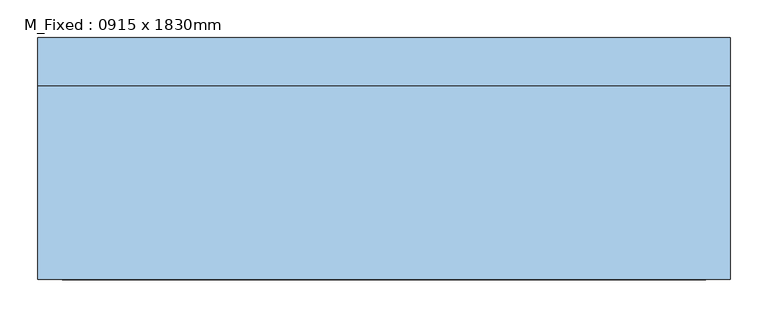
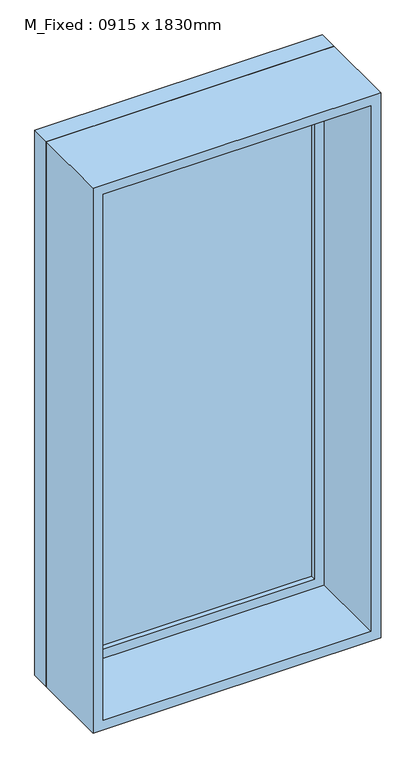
"""IFC4 building model written with IfcOpenShell, lengths in millimetres: window geometry, M_Fixed : 0915 x 1830mm."""

import ifcopenshell
import ifcopenshell.guid

model = None  # the IFC model being written
_history = None  # IfcOwnerHistory: only IFC2X3 demands one
_inside = {}  # id of a spatial element -> (the spatial element, [elements in it])
_under = {}  # id of a project, library or spatial element -> (it, [spatial elements below it])
_declared = {}  # id of a project -> (the project, [libraries it declares])
_typed = {}  # id of a type object -> (the type object, [elements of that type])
_made_of = {}  # id of a material, layer set ... -> (it, [elements and type objects made of it])


def new_model(schema):
    """Start an empty IFC model of exactly this schema.

    Asked for "IFC4X3", IfcOpenShell would pick the latest addendum, in which some entities
    have other attributes; the version numbers below select the first issue.
    IFC2X3 requires an IfcOwnerHistory on every rooted entity: one is made here for all.
    """
    global model, _history
    if schema == "IFC4X3":
        model = ifcopenshell.file(schema_version=(4, 3, 0, 0))
    else:
        model = ifcopenshell.file(schema=schema)
    _inside.clear()
    _under.clear()
    _declared.clear()
    _typed.clear()
    _made_of.clear()
    _history = None
    if model.schema == "IFC2X3":
        org = make("IfcOrganization", Name="unknown")
        user = make(
            "IfcPersonAndOrganization",
            ThePerson=make("IfcPerson", FamilyName="unknown"),
            TheOrganization=org,
        )
        app = make(
            "IfcApplication",
            ApplicationDeveloper=org,
            Version="unknown",
            ApplicationFullName="unknown",
            ApplicationIdentifier="unknown",
        )
        _history = make(
            "IfcOwnerHistory",
            OwningUser=user,
            OwningApplication=app,
            ChangeAction="ADDED",
            CreationDate=0,
        )
    return model


def make(cls, **values):
    """One entity of the class cls with the attributes given. An attribute that is None is left unset."""
    return model.create_entity(
        cls, **{name: value for name, value in values.items() if value is not None}
    )


def rooted(cls, **values):
    """An entity with a GlobalId (a new one), such as an element, a storey or a relation."""
    return make(cls, GlobalId=ifcopenshell.guid.new(), OwnerHistory=_history, **values)


def si_unit(unit_type, name, prefix=None):
    """IfcSIUnit, for example si_unit("LENGTHUNIT", "METRE", prefix="MILLI")."""
    return make("IfcSIUnit", UnitType=unit_type, Prefix=prefix, Name=name)


def assignment(units):
    """IfcUnitAssignment: the units of a project."""
    return None if units is None else make("IfcUnitAssignment", Units=units)


def point(xyz):
    """IfcCartesianPoint."""
    return None if xyz is None else make("IfcCartesianPoint", Coordinates=xyz)


def direction(xyz):
    """IfcDirection."""
    return None if xyz is None else make("IfcDirection", DirectionRatios=xyz)


def frame(location, z_axis=None, x_axis=None):
    """IfcAxis2Placement3D, a coordinate frame: its origin and axes. An axis left out is left unset."""
    return make(
        "IfcAxis2Placement3D",
        Location=point(location),
        Axis=direction(z_axis),
        RefDirection=direction(x_axis),
    )


def origin():
    """The frame at (0, 0, 0) with its axes left unset."""
    return frame((0.0, 0.0, 0.0))


def place(relative_to, where):
    """IfcLocalPlacement: puts the frame where relative to a parent placement (None: the world)."""
    return make(
        "IfcLocalPlacement", PlacementRelTo=relative_to, RelativePlacement=where
    )


def context(
    kind, dimensions, precision=None, world=None, true_north=None, identifier=None
):
    """IfcGeometricRepresentationContext, for example the 3D "Model" context."""
    return make(
        "IfcGeometricRepresentationContext",
        ContextIdentifier=identifier,
        ContextType=kind,
        CoordinateSpaceDimension=dimensions,
        Precision=precision,
        WorldCoordinateSystem=world,
        TrueNorth=true_north,
    )


def project(units=None, contexts=None):
    """IfcProject with its units and contexts."""
    return rooted(
        "IfcProject",
        Name="project",
        RepresentationContexts=contexts,
        UnitsInContext=assignment(units),
    )


def spatial(cls, under=None, at=None, **own):
    """A site, building, storey or space (cls), placed at a placement, below another one or the project."""
    s = rooted(cls, ObjectPlacement=at, **own)
    if under is not None:
        _under.setdefault(under.id(), (under, []))[1].append(s)
    return s


def polyline(points):
    """IfcPolyline through the points."""
    return make("IfcPolyline", Points=[point(p) for p in points])


def outline(outer, holes=None, kind="AREA"):
    """IfcArbitraryClosedProfileDef: a profile drawn as a closed curve; with holes, ...WithVoids."""
    if holes is None:
        return make("IfcArbitraryClosedProfileDef", ProfileType=kind, OuterCurve=outer)
    return make(
        "IfcArbitraryProfileDefWithVoids",
        ProfileType=kind,
        OuterCurve=outer,
        InnerCurves=holes,
    )


def extrude(swept, where, along, depth):
    """IfcExtrudedAreaSolid: the profile swept, set in the frame where, extruded along a direction by depth."""
    return make(
        "IfcExtrudedAreaSolid",
        SweptArea=swept,
        Position=where,
        ExtrudedDirection=direction(along),
        Depth=depth,
    )


def shape(context_of_items, identifier, shape_type, items):
    """IfcShapeRepresentation: the items that make up one representation, for example the "Body"."""
    return make(
        "IfcShapeRepresentation",
        ContextOfItems=context_of_items,
        RepresentationIdentifier=identifier,
        RepresentationType=shape_type,
        Items=items,
    )


def source(mapping_origin, context_of_items, identifier, shape_type, items):
    """IfcRepresentationMap: a shape defined once, which mapped items show again and again."""
    return make(
        "IfcRepresentationMap",
        MappingOrigin=mapping_origin,
        MappedRepresentation=shape(context_of_items, identifier, shape_type, items),
    )


def transform(
    local_origin,
    x_axis=None,
    y_axis=None,
    z_axis=None,
    scale=None,
    scale2=None,
    scale3=None,
    uniform=True,
):
    """IfcCartesianTransformationOperator3D, or its non-uniform kind. x_axis, y_axis, z_axis: its Axis1, 2, 3."""
    if uniform:
        return make(
            "IfcCartesianTransformationOperator3D",
            Axis1=direction(x_axis),
            Axis2=direction(y_axis),
            LocalOrigin=point(local_origin),
            Scale=scale,
            Axis3=direction(z_axis),
        )
    return make(
        "IfcCartesianTransformationOperator3DnonUniform",
        Axis1=direction(x_axis),
        Axis2=direction(y_axis),
        LocalOrigin=point(local_origin),
        Scale=scale,
        Axis3=direction(z_axis),
        Scale2=scale2,
        Scale3=scale3,
    )


def mapped(mapping_source, mapping_target):
    """IfcMappedItem: shows the shape of a source again, moved by a transform."""
    return make(
        "IfcMappedItem", MappingSource=mapping_source, MappingTarget=mapping_target
    )


def made_of(thing, what):
    """Note that an element or type object is made of a material, layer set ...; save() writes the relation."""
    if what is not None:
        _made_of.setdefault(what.id(), (what, []))[1].append(thing)
    return thing


def element(
    cls,
    number,
    at=None,
    inside=None,
    cuts=None,
    type_object=None,
    material=None,
    context=None,
    identifier="Body",
    shape_type=None,
    held_by="IfcProductDefinitionShape",
    body=None,
    shapes=None,
    **own,
):
    """One element of the class cls, such as IfcWall. Its Tag is "e" and its number.

    at: its placement. inside: the storey or other place that contains it. cuts: it is an
    opening in that element (IfcRelVoidsElement). A single representation is given by context,
    identifier, shape_type and body (its items); several are given by shapes. held_by: the class
    of the entity that holds the representations. save() writes the other relations.
    """
    e = rooted(cls, Tag="e%d" % number, ObjectPlacement=at, **own)
    if body is not None:
        shapes = [shape(context, identifier, shape_type, body)]
    if shapes is not None:
        e.Representation = make(held_by, Representations=shapes)
    if inside is not None:
        _inside.setdefault(inside.id(), (inside, []))[1].append(e)
    if cuts is not None:
        rooted(
            "IfcRelVoidsElement", RelatingBuildingElement=cuts, RelatedOpeningElement=e
        )
    if type_object is not None:
        _typed.setdefault(type_object.id(), (type_object, []))[1].append(e)
    return made_of(e, material)


def aggregate(whole, parts):
    """IfcRelAggregates: a whole, such as a stair, and the parts it consists of."""
    return rooted("IfcRelAggregates", RelatingObject=whole, RelatedObjects=parts)


def save(model, path):
    """Write the relations noted so far, then the file.

    IfcRelAggregates (storeys below a building ...), IfcRelContainedInSpatialStructure (elements
    in a storey), IfcRelDefinesByType, IfcRelAssociatesMaterial and IfcRelDeclares: one each for
    every whole, place, type object, material and project.
    """
    for whole, parts in _under.values():
        aggregate(whole, parts)
    for where, things in _inside.values():
        rooted(
            "IfcRelContainedInSpatialStructure",
            RelatedElements=things,
            RelatingStructure=where,
        )
    for kind, things in _typed.values():
        rooted("IfcRelDefinesByType", RelatedObjects=things, RelatingType=kind)
    for what, things in _made_of.values():
        rooted("IfcRelAssociatesMaterial", RelatedObjects=things, RelatingMaterial=what)
    for by, libraries in _declared.values():
        rooted("IfcRelDeclares", RelatingContext=by, RelatedDefinitions=libraries)
    model.write(path)


def m_fixed_0915_x_1830mm_9602f45c(model_context):
    return source(origin(), model_context, "Body", "SweptSolid", [
        extrude(outline(polyline([(-394.5, 138.0), (394.5, 138.0), (394.5, 126.0), (-394.5, 126.0), (-394.5, 138.0)])), frame((0.0, 0.0, 368.0), z_axis=(0.0, 0.0, 1.0), x_axis=(1.0, 0.0, 0.0)), (0.0, 0.0, 1.0), 1704.0),
        extrude(outline(polyline([(2116.0, -438.5), (324.0, -438.5), (324.0, 438.5), (2116.0, 438.5), (2116.0, -438.5)]), holes=[polyline([(2072.0, -394.5), (2072.0, 394.5), (368.0, 394.5), (368.0, -394.5), (2072.0, -394.5)])]), frame((0.0, 110.0, 0.0), z_axis=(0.0, 1.0, 0.0), x_axis=(0.0, 0.0, 1.0)), (0.0, 0.0, 1.0), 44.0),
        extrude(outline(polyline([(2135.0, -457.5), (305.0, -457.5), (305.0, 457.5), (2135.0, 457.5), (2135.0, -457.5)]), holes=[polyline([(2116.0, -438.5), (2116.0, 438.5), (324.0, 438.5), (324.0, -438.5), (2116.0, -438.5)])]), frame((0.0, 110.0, 0.0), z_axis=(0.0, 1.0, 0.0), x_axis=(0.0, 0.0, 1.0)), (0.0, 0.0, 1.0), 63.0),
        extrude(outline(polyline([(2135.0, -457.5), (305.0, -457.5), (305.0, 457.5), (2135.0, 457.5), (2135.0, -457.5)]), holes=[polyline([(2103.0, -425.5), (2103.0, 425.5), (337.0, 425.5), (337.0, -425.5), (2103.0, -425.5)])]), frame((0.0, -147.0, 0.0), z_axis=(0.0, 1.0, 0.0), x_axis=(0.0, 0.0, 1.0)), (0.0, 0.0, 1.0), 257.0),
    ])


if __name__ == "__main__":
    model = new_model("IFC4")
    model_context = context("Model", 3, world=origin())
    ifc_project = project(units=[si_unit("LENGTHUNIT", "METRE", prefix="MILLI")], contexts=[model_context])
    site = spatial("IfcSite", under=ifc_project)
    building = spatial("IfcBuilding", under=site)
    placement = place(None, origin())
    m_fixed_0915_x_1830mm_shape = m_fixed_0915_x_1830mm_9602f45c(model_context)
    element("IfcWindow", 1, ObjectType="M_Fixed : 0915 x 1830mm", at=placement, inside=building, context=model_context, shape_type="MappedRepresentation", body=[
        mapped(m_fixed_0915_x_1830mm_shape, transform((0.0, 0.0, 0.0), x_axis=(1.0, 0.0, 0.0), y_axis=(0.0, 1.0, 0.0), z_axis=(0.0, 0.0, 1.0))),
    ])
    save(model, "model.ifc")
